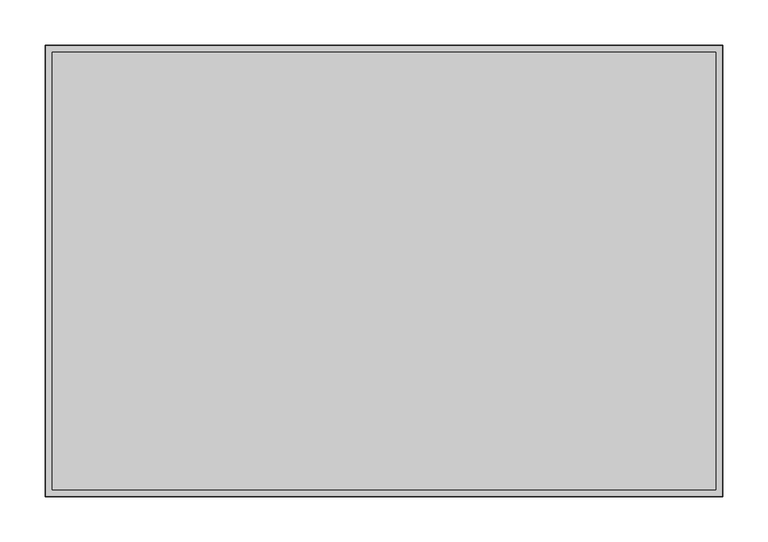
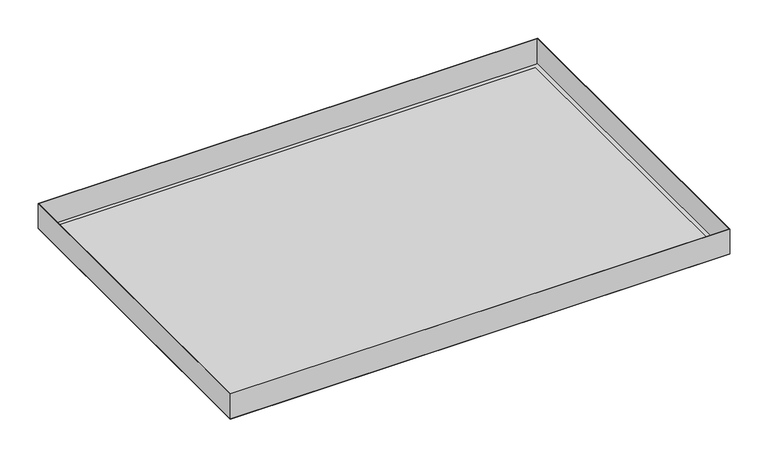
"""IFC4 building model written with IfcOpenShell, lengths in millimetres: proxy geometry, durlum_S5-100_panel : durlum_S5-100_panel_wall_corner."""

from ifc_helpers import new_model, si_unit, frame, origin, origin_with_axes, place, context, project, spatial, polyline, outline, extrude, source, transform, mapped, element, save


def generic_models_0902a4dc(model_context):
    return source(origin(), model_context, "Body", "SweptSolid", [
        extrude(outline(polyline([(374.75, 249.75), (374.75, -249.75), (-374.75, -249.75), (-374.75, 249.75), (374.75, 249.75)]), holes=[polyline([(374.15, 249.15), (-374.15, 249.15), (-374.15, -249.15), (374.15, -249.15), (374.15, 249.15)])]), frame((0.0, 0.0, 0.6), z_axis=(0.0, 0.0, 1.0), x_axis=(1.0, 0.0, 0.0)), (0.0, 0.0, 1.0), 39.4),
        extrude(outline(polyline([(366.75, 241.75), (366.75, -241.75), (-366.75, -241.75), (-366.75, 241.75), (366.75, 241.75)])), frame((0.0, 0.0, 0.6), z_axis=(0.0, 0.0, 1.0), x_axis=(1.0, 0.0, 0.0)), (0.0, 0.0, 1.0), 0.6),
        extrude(outline(polyline([(374.75, 249.75), (374.75, -249.75), (-374.75, -249.75), (-374.75, 249.75), (374.75, 249.75)]), holes=[polyline([(366.75, 241.75), (-366.75, 241.75), (-366.75, -241.75), (366.75, -241.75), (366.75, 241.75)])]), origin_with_axes(), (0.0, 0.0, 1.0), 0.6),
        extrude(outline(polyline([(366.75, 241.75), (366.75, -241.75), (-366.75, -241.75), (-366.75, 241.75), (366.75, 241.75)])), origin_with_axes(), (0.0, 0.0, 1.0), 0.6),
    ])


if __name__ == "__main__":
    model = new_model("IFC4")
    model_context = context("Model", 3, world=origin())
    ifc_project = project(units=[si_unit("LENGTHUNIT", "METRE", prefix="MILLI")], contexts=[model_context])
    site = spatial("IfcSite", under=ifc_project)
    building = spatial("IfcBuilding", under=site)
    placement = place(None, origin())
    generic_models_shape = generic_models_0902a4dc(model_context)
    element("IfcBuildingElementProxy", 1, Name="durlum_S5-100_panel : durlum_S5-100_panel_wall_corner", ObjectType="durlum_S5-100_panel : durlum_S5-100_panel_wall_corner", at=placement, inside=building, context=model_context, shape_type="MappedRepresentation", body=[
        mapped(generic_models_shape, transform((0.0, 0.0, 0.0), x_axis=(1.0, 0.0, 0.0), y_axis=(0.0, 1.0, 0.0), z_axis=(0.0, 0.0, 1.0))),
    ])
    save(model, "model.ifc")
